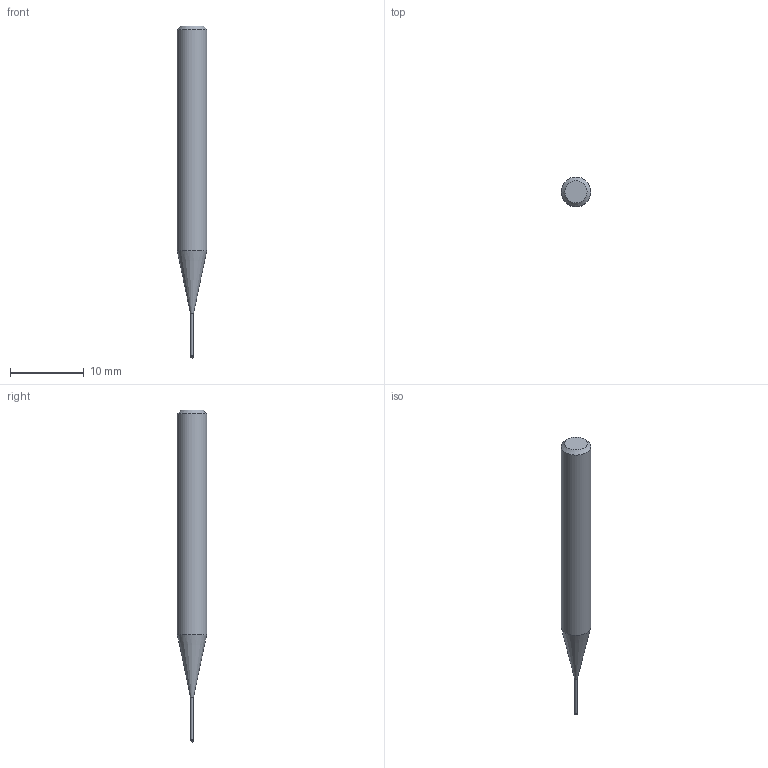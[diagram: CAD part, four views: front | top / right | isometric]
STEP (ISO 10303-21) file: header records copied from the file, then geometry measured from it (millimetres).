
FILE_DESCRIPTION((''),'2;1');
FILE_NAME('C:\Users\nsx150\AppData\Local\Temp\Mastercam 2021\ZXBT0ST9RL\TEMP.step','2021-06-25T11:02:22',(''),(''),'STEP Write','Mastercam 2021 ... CNC Software, Inc.','');
FILE_SCHEMA(('AUTOMOTIVE_DESIGN'));
Length unit declared in the file: millimetre
Products named in the file (1): None
Bounding box: 4 x 4 x 45 mm (x, y, z)
Volume: 421.4 mm3; surface area: 458.5 mm2
Topology: 2 solids, 2 shells, 9 faces, 14 edges, 8 vertices
Faces by surface type: plane 3, cylinder 3, cone 2, sphere 1
Full cylindrical faces by diameter (mm): 0.37 x1, 0.4 x1, 4 x1
Entity records: 211 total; most frequent: DIRECTION 36, CARTESIAN_POINT 25, AXIS2_PLACEMENT_3D 18, ORIENTED_EDGE 14, EDGE_LOOP 14, STYLED_ITEM 12, ADVANCED_FACE 9, FACE_BOUND 8
